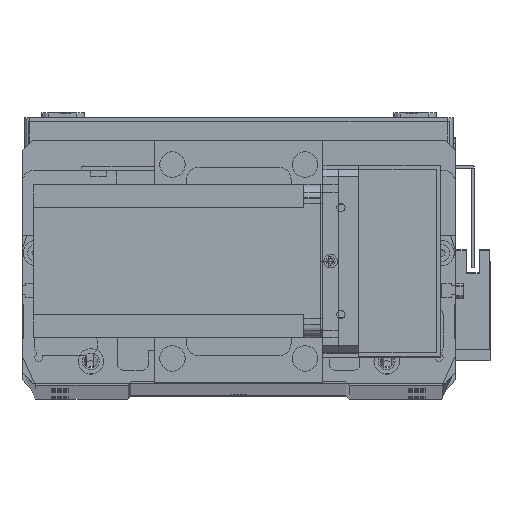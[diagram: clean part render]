
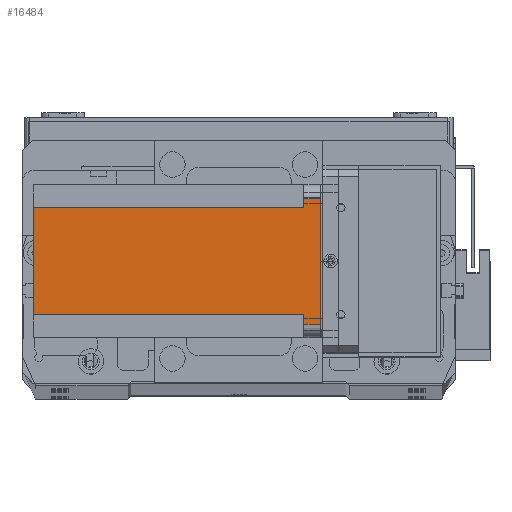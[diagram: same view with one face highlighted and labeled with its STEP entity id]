
A CAD part, top view. The second image highlights one B-rep face of the part: STEP entity #16484.
In plain terms, the highlighted planar face has unit normal (0, 0, 1) as drawn and (-1, 0, 0) by its records, which use the part's own axes.
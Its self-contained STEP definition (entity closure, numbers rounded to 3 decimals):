
#465 = CARTESIAN_POINT ( 'NONE',  ( 0., 5., -6.5 ) ) ;
#774 = EDGE_CURVE ( 'NONE', #30191, #20221, #25720, .T. ) ;
#1930 = ORIENTED_EDGE ( 'NONE', *, *, #12518, .T. ) ;
#3959 = ORIENTED_EDGE ( 'NONE', *, *, #23619, .F. ) ;
#4016 = DIRECTION ( 'NONE',  ( 0., -1., 0. ) ) ;
#4229 = VERTEX_POINT ( 'NONE', #26462 ) ;
#4467 = CARTESIAN_POINT ( 'NONE',  ( 0., 0., -6.5 ) ) ;
#4601 = ORIENTED_EDGE ( 'NONE', *, *, #774, .F. ) ;
#4955 = CARTESIAN_POINT ( 'NONE',  ( 0., 55., -6.5 ) ) ;
#5948 = LINE ( 'NONE', #24752, #33612 ) ;
#6095 = AXIS2_PLACEMENT_3D ( 'NONE', #14701, #14957, #14580 ) ;
#6559 = VECTOR ( 'NONE', #11689, 1000. ) ;
#7225 = EDGE_CURVE ( 'NONE', #30191, #4229, #11296, .T. ) ;
#7259 = CARTESIAN_POINT ( 'NONE',  ( 0., 55., 0. ) ) ;
#7603 = CARTESIAN_POINT ( 'NONE',  ( 0., 51., -6.5 ) ) ;
#7607 = CARTESIAN_POINT ( 'NONE',  ( 0., 9., -112.5 ) ) ;
#9554 = CARTESIAN_POINT ( 'NONE',  ( 0., 0., 0. ) ) ;
#9729 = DIRECTION ( 'NONE',  ( 0., 1., 0. ) ) ;
#10080 = CARTESIAN_POINT ( 'NONE',  ( 0., 60., -6.5 ) ) ;
#10469 = VECTOR ( 'NONE', #4016, 1000. ) ;
#10850 = VERTEX_POINT ( 'NONE', #4955 ) ;
#11296 = LINE ( 'NONE', #12495, #30953 ) ;
#11689 = DIRECTION ( 'NONE',  ( 0., 0., 1. ) ) ;
#11954 = DIRECTION ( 'NONE',  ( 0., 0., 1. ) ) ;
#12495 = CARTESIAN_POINT ( 'NONE',  ( 0., 5., -112.5 ) ) ;
#12518 = EDGE_CURVE ( 'NONE', #32298, #10850, #5948, .T. ) ;
#13213 = ORIENTED_EDGE ( 'NONE', *, *, #7225, .T. ) ;
#13757 = VECTOR ( 'NONE', #32257, 1000. ) ;
#13937 = VERTEX_POINT ( 'NONE', #7603 ) ;
#14580 = DIRECTION ( 'NONE',  ( 0., -1., 0. ) ) ;
#14653 = PLANE ( 'NONE',  #6095 ) ;
#14701 = CARTESIAN_POINT ( 'NONE',  ( 0., 0., -112.5 ) ) ;
#14882 = CARTESIAN_POINT ( 'NONE',  ( 0., 9., -6.5 ) ) ;
#14957 = DIRECTION ( 'NONE',  ( -1., 0., 0. ) ) ;
#15097 = EDGE_CURVE ( 'NONE', #13937, #10850, #21029, .T. ) ;
#15536 = ORIENTED_EDGE ( 'NONE', *, *, #27709, .F. ) ;
#16204 = EDGE_LOOP ( 'NONE', ( #4601, #13213, #20125, #1930, #25351, #3959, #29599, #15536 ) ) ;
#16484 = ADVANCED_FACE ( 'NONE', ( #17655 ), #14653, .T. ) ;
#17358 = LINE ( 'NONE', #9554, #10469 ) ;
#17655 = FACE_OUTER_BOUND ( 'NONE', #16204, .T. ) ;
#20125 = ORIENTED_EDGE ( 'NONE', *, *, #25573, .F. ) ;
#20221 = VERTEX_POINT ( 'NONE', #14882 ) ;
#21029 = LINE ( 'NONE', #10080, #27095 ) ;
#22889 = VERTEX_POINT ( 'NONE', #24478 ) ;
#23619 = EDGE_CURVE ( 'NONE', #32193, #13937, #27362, .T. ) ;
#24478 = CARTESIAN_POINT ( 'NONE',  ( 0., 9., -112.5 ) ) ;
#24571 = DIRECTION ( 'NONE',  ( 0., 0., -1. ) ) ;
#24752 = CARTESIAN_POINT ( 'NONE',  ( 0., 55., -112.5 ) ) ;
#25351 = ORIENTED_EDGE ( 'NONE', *, *, #15097, .F. ) ;
#25501 = EDGE_CURVE ( 'NONE', #32193, #22889, #34159, .T. ) ;
#25573 = EDGE_CURVE ( 'NONE', #32298, #4229, #17358, .T. ) ;
#25720 = LINE ( 'NONE', #4467, #33300 ) ;
#26462 = CARTESIAN_POINT ( 'NONE',  ( 0., 5., 0. ) ) ;
#26524 = LINE ( 'NONE', #7607, #32502 ) ;
#27083 = CARTESIAN_POINT ( 'NONE',  ( 0., 51., -112.5 ) ) ;
#27095 = VECTOR ( 'NONE', #9729, 1000. ) ;
#27362 = LINE ( 'NONE', #27083, #6559 ) ;
#27709 = EDGE_CURVE ( 'NONE', #20221, #22889, #26524, .T. ) ;
#27917 = DIRECTION ( 'NONE',  ( 0., 1., 0. ) ) ;
#28415 = CARTESIAN_POINT ( 'NONE',  ( 0., 51., -112.5 ) ) ;
#29599 = ORIENTED_EDGE ( 'NONE', *, *, #25501, .T. ) ;
#29719 = CARTESIAN_POINT ( 'NONE',  ( 0., 0., -112.5 ) ) ;
#30191 = VERTEX_POINT ( 'NONE', #465 ) ;
#30750 = DIRECTION ( 'NONE',  ( 0., 0., -1. ) ) ;
#30953 = VECTOR ( 'NONE', #11954, 1000. ) ;
#32193 = VERTEX_POINT ( 'NONE', #28415 ) ;
#32257 = DIRECTION ( 'NONE',  ( 0., -1., 0. ) ) ;
#32298 = VERTEX_POINT ( 'NONE', #7259 ) ;
#32502 = VECTOR ( 'NONE', #30750, 1000. ) ;
#33300 = VECTOR ( 'NONE', #27917, 1000. ) ;
#33612 = VECTOR ( 'NONE', #24571, 1000. ) ;
#34159 = LINE ( 'NONE', #29719, #13757 ) ;
